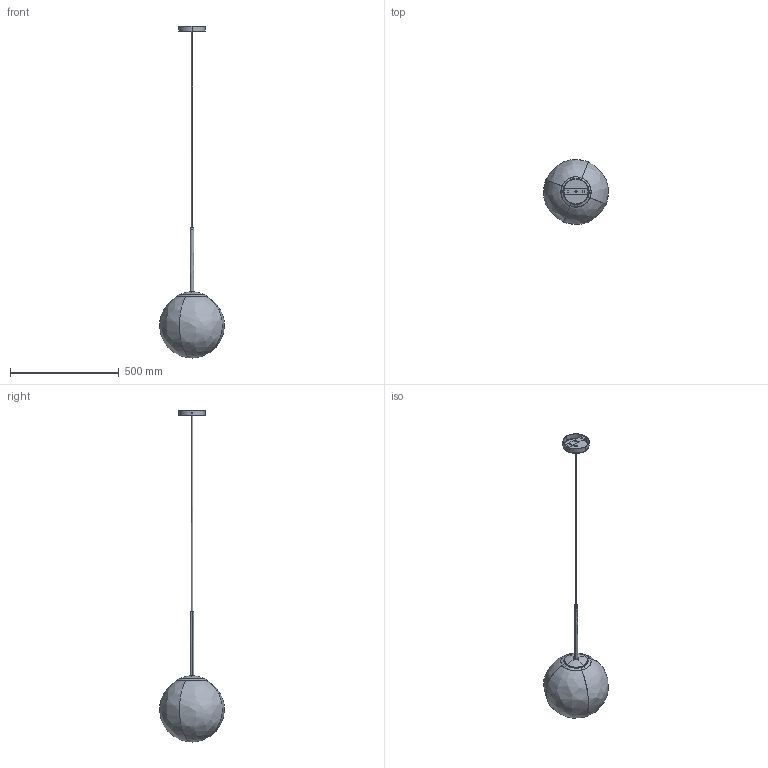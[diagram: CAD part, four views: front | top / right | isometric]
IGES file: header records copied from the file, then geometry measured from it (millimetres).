
Start section: Comment
Global section: file name: PRJ 192_Sospensione singola vetro grande.igs; native system:  By UGS Corp.; preprocessor: XPlus GENERIC/IGES 3.0; author: Author; organization: Title; date: 20240509.094747; units: inch
Bounding box: 298.86 x 298.86 x 1528.5 mm (x, y, z)
Surface area: 715632.1 mm2 (no closed solid volume)
Topology: 0 solids, 0 shells, 291 faces, 1932 edges, 1916 vertices
Faces by surface type: bspline 291
